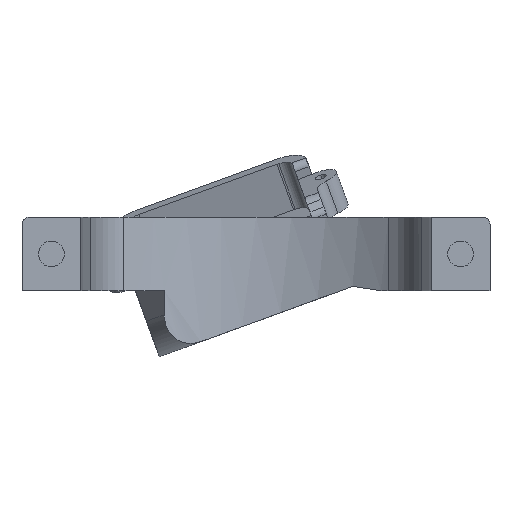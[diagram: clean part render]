
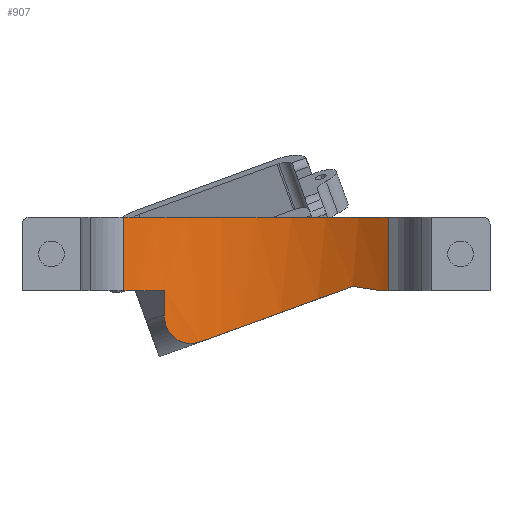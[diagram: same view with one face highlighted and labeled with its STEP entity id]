
A CAD part, front view. The second image highlights one B-rep face of the part: STEP entity #907.
In plain terms, the highlighted cylindrical face has radius 30 mm (diameter 60 mm), a partial arc.
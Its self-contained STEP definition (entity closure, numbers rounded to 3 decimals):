
#161 = CARTESIAN_POINT ( 'NONE',  ( -10.448, 28.122, -6.844 ) ) ;
#177 = CIRCLE ( 'NONE', #3478, 30. ) ;
#362 = EDGE_CURVE ( 'NONE', #2847, #3343, #1540, .T. ) ;
#370 = ORIENTED_EDGE ( 'NONE', *, *, #1656, .F. ) ;
#411 = CARTESIAN_POINT ( 'NONE',  ( -12.5, 27.272, -3.614 ) ) ;
#417 = CARTESIAN_POINT ( 'NONE',  ( 13.156, 26.962, 0.577 ) ) ;
#432 = VERTEX_POINT ( 'NONE', #3713 ) ;
#436 = AXIS2_PLACEMENT_3D ( 'NONE', #5079, #4741, #3896 ) ;
#440 = CARTESIAN_POINT ( 'NONE',  ( 6.667, 30.128, -1.785 ) ) ;
#515 = CARTESIAN_POINT ( 'NONE',  ( -11.963, 27.512, -5.397 ) ) ;
#545 = CARTESIAN_POINT ( 'NONE',  ( -11.204, 27.83, -6.35 ) ) ;
#548 = ORIENTED_EDGE ( 'NONE', *, *, #5176, .T. ) ;
#568 = CARTESIAN_POINT ( 'NONE',  ( -11.422, 27.741, -6.142 ) ) ;
#725 = DIRECTION ( 'NONE',  ( 0., 0., 1. ) ) ;
#902 = CARTESIAN_POINT ( 'NONE',  ( 17., 24.718, 0. ) ) ;
#907 = ADVANCED_FACE ( 'NONE', ( #3837 ), #3291, .F. ) ;
#1095 =( BOUNDED_CURVE ( )  B_SPLINE_CURVE ( 3, ( #417, #2915, #3732, #902 ),
 .UNSPECIFIED., .F., .F. ) 
 B_SPLINE_CURVE_WITH_KNOTS ( ( 4, 4 ),
 ( 5.166, 5.315 ),
 .UNSPECIFIED. ) 
 CURVE ( )  GEOMETRIC_REPRESENTATION_ITEM ( )  RATIONAL_B_SPLINE_CURVE ( ( 1., 0.998, 0.998, 1. ) ) 
 REPRESENTATION_ITEM ( '' )  );
#1132 = VERTEX_POINT ( 'NONE', #4326 ) ;
#1278 = CARTESIAN_POINT ( 'NONE',  ( -17.993, 24.006, 10. ) ) ;
#1336 = CARTESIAN_POINT ( 'NONE',  ( -12.233, 27.393, -4.842 ) ) ;
#1354 = EDGE_CURVE ( 'NONE', #2847, #5216, #5004, .T. ) ;
#1358 = CARTESIAN_POINT ( 'NONE',  ( -11.801, 27.582, -5.658 ) ) ;
#1452 = CARTESIAN_POINT ( 'NONE',  ( 0., 0., 10. ) ) ;
#1540 = CIRCLE ( 'NONE', #1803, 30. ) ;
#1656 = EDGE_CURVE ( 'NONE', #2818, #432, #1889, .T. ) ;
#1708 = ORIENTED_EDGE ( 'NONE', *, *, #3686, .T. ) ;
#1738 = ORIENTED_EDGE ( 'NONE', *, *, #1866, .T. ) ;
#1742 = CARTESIAN_POINT ( 'NONE',  ( -0.516, 30.852, -4.399 ) ) ;
#1803 = AXIS2_PLACEMENT_3D ( 'NONE', #1452, #3974, #3109 ) ;
#1816 = CARTESIAN_POINT ( 'NONE',  ( -10.84, 27.974, -6.618 ) ) ;
#1866 = EDGE_CURVE ( 'NONE', #3013, #2668, #3459, .T. ) ;
#1889 = LINE ( 'NONE', #3147, #2240 ) ;
#1917 = DIRECTION ( 'NONE',  ( 0., 0., -1. ) ) ;
#2010 = CARTESIAN_POINT ( 'NONE',  ( -12.5, 27.272, -3.295 ) ) ;
#2031 = CARTESIAN_POINT ( 'NONE',  ( -17.993, 24.006, 10. ) ) ;
#2065 = CARTESIAN_POINT ( 'NONE',  ( -12.467, 27.287, -3.927 ) ) ;
#2143 = CARTESIAN_POINT ( 'NONE',  ( 17.993, 24.006, 10. ) ) ;
#2165 = CARTESIAN_POINT ( 'NONE',  ( -12.037, 27.48, -5.261 ) ) ;
#2240 = VECTOR ( 'NONE', #725, 1000. ) ;
#2318 = DIRECTION ( 'NONE',  ( 1., 0., 0. ) ) ;
#2436 = B_SPLINE_CURVE_WITH_KNOTS ( 'NONE', 3,
 ( #2010, #411, #2065, #3876, #1336, #2165, #515, #1358, #4724, #568, #545, #1816, #5088, #161, #2632, #3830, #3908, #2983, #2549, #5112, #4644, #4295 ),
 .UNSPECIFIED., .F., .F.,
 ( 4, 2, 2, 2, 2, 2, 2, 2, 2, 2, 4 ),
 ( 0., 0.001, 0.002, 0.002, 0.003, 0.004, 0.004, 0.005, 0.006, 0.007, 0.008 ),
 .UNSPECIFIED. ) ;
#2545 = EDGE_CURVE ( 'NONE', #2790, #1132, #3697, .T. ) ;
#2549 = CARTESIAN_POINT ( 'NONE',  ( -8.699, 28.713, -7.202 ) ) ;
#2629 = ORIENTED_EDGE ( 'NONE', *, *, #2545, .F. ) ;
#2632 = CARTESIAN_POINT ( 'NONE',  ( -10.312, 28.172, -6.907 ) ) ;
#2668 = VERTEX_POINT ( 'NONE', #4702 ) ;
#2790 = VERTEX_POINT ( 'NONE', #2846 ) ;
#2809 = ORIENTED_EDGE ( 'NONE', *, *, #362, .F. ) ;
#2818 = VERTEX_POINT ( 'NONE', #4018 ) ;
#2846 = CARTESIAN_POINT ( 'NONE',  ( 13.156, 26.962, 0.577 ) ) ;
#2847 = VERTEX_POINT ( 'NONE', #2031 ) ;
#2882 = VECTOR ( 'NONE', #2925, 1000. ) ;
#2915 = CARTESIAN_POINT ( 'NONE',  ( 14.492, 26.31, 0.376 ) ) ;
#2925 = DIRECTION ( 'NONE',  ( 0., 0., -1. ) ) ;
#2983 = CARTESIAN_POINT ( 'NONE',  ( -9.002, 28.619, -7.206 ) ) ;
#2987 = DIRECTION ( 'NONE',  ( -1., 0., 0. ) ) ;
#3013 = VERTEX_POINT ( 'NONE', #3662 ) ;
#3109 = DIRECTION ( 'NONE',  ( 1., 0., 0. ) ) ;
#3110 = VECTOR ( 'NONE', #4592, 1000. ) ;
#3147 = CARTESIAN_POINT ( 'NONE',  ( -12.5, 27.272, -9. ) ) ;
#3239 = EDGE_CURVE ( 'NONE', #2790, #3013, #1095, .T. ) ;
#3291 = CYLINDRICAL_SURFACE ( 'NONE', #5284, 30. ) ;
#3336 = CARTESIAN_POINT ( 'NONE',  ( 17.993, 24.006, 10. ) ) ;
#3343 = VERTEX_POINT ( 'NONE', #2143 ) ;
#3344 = DIRECTION ( 'NONE',  ( 0., 0., -1. ) ) ;
#3459 = CIRCLE ( 'NONE', #436, 30. ) ;
#3478 = AXIS2_PLACEMENT_3D ( 'NONE', #5185, #1917, #2318 ) ;
#3662 = CARTESIAN_POINT ( 'NONE',  ( 17., 24.718, 0. ) ) ;
#3686 = EDGE_CURVE ( 'NONE', #2818, #1132, #2436, .T. ) ;
#3697 =( BOUNDED_CURVE ( )  B_SPLINE_CURVE ( 3, ( #4193, #440, #1742, #3756 ),
 .UNSPECIFIED., .F., .T. ) 
 B_SPLINE_CURVE_WITH_KNOTS ( ( 4, 4 ),
 ( 4.258, 4.965 ),
 .UNSPECIFIED. ) 
 CURVE ( )  GEOMETRIC_REPRESENTATION_ITEM ( )  RATIONAL_B_SPLINE_CURVE ( ( 1., 0.959, 0.959, 1. ) ) 
 REPRESENTATION_ITEM ( '' )  );
#3713 = CARTESIAN_POINT ( 'NONE',  ( -12.5, 27.272, 0. ) ) ;
#3732 = CARTESIAN_POINT ( 'NONE',  ( 15.775, 25.561, 0.184 ) ) ;
#3751 = LINE ( 'NONE', #3336, #2882 ) ;
#3756 = CARTESIAN_POINT ( 'NONE',  ( -7.506, 29.046, -6.944 ) ) ;
#3830 = CARTESIAN_POINT ( 'NONE',  ( -9.895, 28.323, -7.068 ) ) ;
#3837 = FACE_OUTER_BOUND ( 'NONE', #4118, .T. ) ;
#3876 = CARTESIAN_POINT ( 'NONE',  ( -12.334, 27.347, -4.54 ) ) ;
#3896 = DIRECTION ( 'NONE',  ( 1., 0., 0. ) ) ;
#3908 = CARTESIAN_POINT ( 'NONE',  ( -9.598, 28.425, -7.139 ) ) ;
#3926 = CARTESIAN_POINT ( 'NONE',  ( -17.993, 24.006, 0. ) ) ;
#3945 = ORIENTED_EDGE ( 'NONE', *, *, #3239, .T. ) ;
#3974 = DIRECTION ( 'NONE',  ( 0., 0., -1. ) ) ;
#4018 = CARTESIAN_POINT ( 'NONE',  ( -12.5, 27.272, -3.295 ) ) ;
#4118 = EDGE_LOOP ( 'NONE', ( #370, #1708, #2629, #3945, #1738, #4451, #2809, #5108, #548 ) ) ;
#4137 = CARTESIAN_POINT ( 'NONE',  ( 0., 0., 10. ) ) ;
#4193 = CARTESIAN_POINT ( 'NONE',  ( 13.156, 26.962, 0.577 ) ) ;
#4295 = CARTESIAN_POINT ( 'NONE',  ( -7.506, 29.046, -6.944 ) ) ;
#4326 = CARTESIAN_POINT ( 'NONE',  ( -7.506, 29.046, -6.944 ) ) ;
#4451 = ORIENTED_EDGE ( 'NONE', *, *, #5003, .F. ) ;
#4592 = DIRECTION ( 'NONE',  ( 0., 0., -1. ) ) ;
#4644 = CARTESIAN_POINT ( 'NONE',  ( -7.797, 28.971, -7.049 ) ) ;
#4702 = CARTESIAN_POINT ( 'NONE',  ( 17.993, 24.006, 0. ) ) ;
#4724 = CARTESIAN_POINT ( 'NONE',  ( -11.711, 27.62, -5.784 ) ) ;
#4741 = DIRECTION ( 'NONE',  ( 0., 0., -1. ) ) ;
#5003 = EDGE_CURVE ( 'NONE', #3343, #2668, #3751, .T. ) ;
#5004 = LINE ( 'NONE', #1278, #3110 ) ;
#5079 = CARTESIAN_POINT ( 'NONE',  ( 0., 0., 0. ) ) ;
#5088 = CARTESIAN_POINT ( 'NONE',  ( -10.711, 28.023, -6.7 ) ) ;
#5108 = ORIENTED_EDGE ( 'NONE', *, *, #1354, .T. ) ;
#5112 = CARTESIAN_POINT ( 'NONE',  ( -8.093, 28.889, -7.123 ) ) ;
#5176 = EDGE_CURVE ( 'NONE', #5216, #432, #177, .T. ) ;
#5185 = CARTESIAN_POINT ( 'NONE',  ( 0., 0., 0. ) ) ;
#5216 = VERTEX_POINT ( 'NONE', #3926 ) ;
#5284 = AXIS2_PLACEMENT_3D ( 'NONE', #4137, #3344, #2987 ) ;
